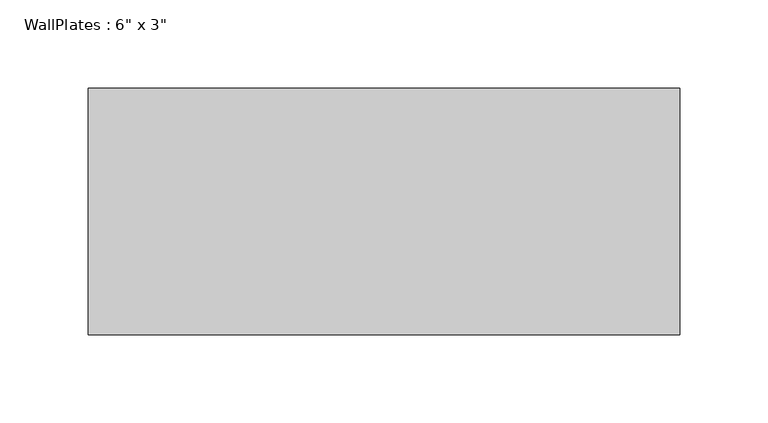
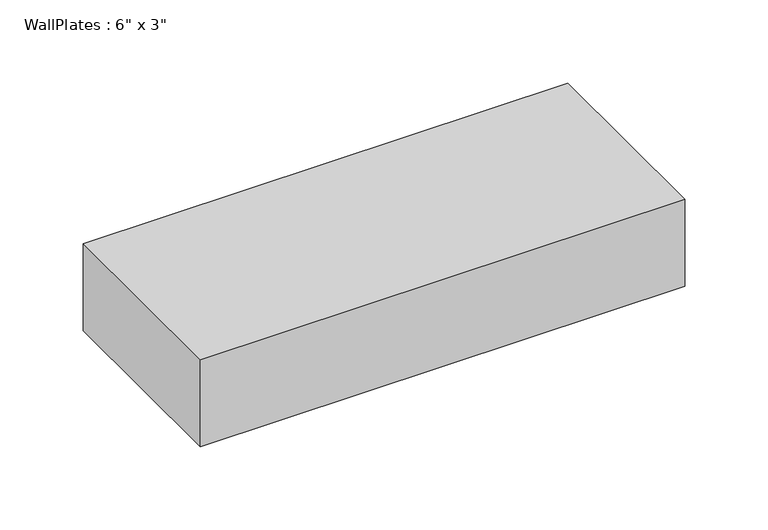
"""IFC4 building model written with IfcOpenShell, lengths in millimetres: beam geometry."""

from ifc_helpers import new_model, si_unit, frame, origin, place, context, project, spatial, polyline, outline, extrude, source, transform, mapped, element, save


def beam_da0a946a(model_context):
    return source(origin(), model_context, "Body", "SweptSolid", [
        extrude(outline(polyline([(-167.645, -69.85), (-167.645, 69.85), (167.645, 69.85), (167.645, -69.85), (-167.645, -69.85)])), frame((0.0, 0.0, -31.75), z_axis=(0.0, 0.0, 1.0), x_axis=(1.0, 0.0, 0.0)), (0.0, 0.0, 1.0), 63.5),
    ])


if __name__ == "__main__":
    model = new_model("IFC4")
    model_context = context("Model", 3, world=origin())
    ifc_project = project(units=[si_unit("LENGTHUNIT", "METRE", prefix="MILLI")], contexts=[model_context])
    site = spatial("IfcSite", under=ifc_project)
    building = spatial("IfcBuilding", under=site)
    placement = place(None, origin())
    beam_shape = beam_da0a946a(model_context)
    element("IfcBeam", 1, ObjectType="WallPlates : 6\" x 3\"", at=placement, inside=building, context=model_context, shape_type="MappedRepresentation", body=[
        mapped(beam_shape, transform((0.0, 0.0, 0.0), x_axis=(1.0, 0.0, 0.0), y_axis=(0.0, 1.0, 0.0), z_axis=(0.0, 0.0, 1.0))),
    ])
    save(model, "model.ifc")
